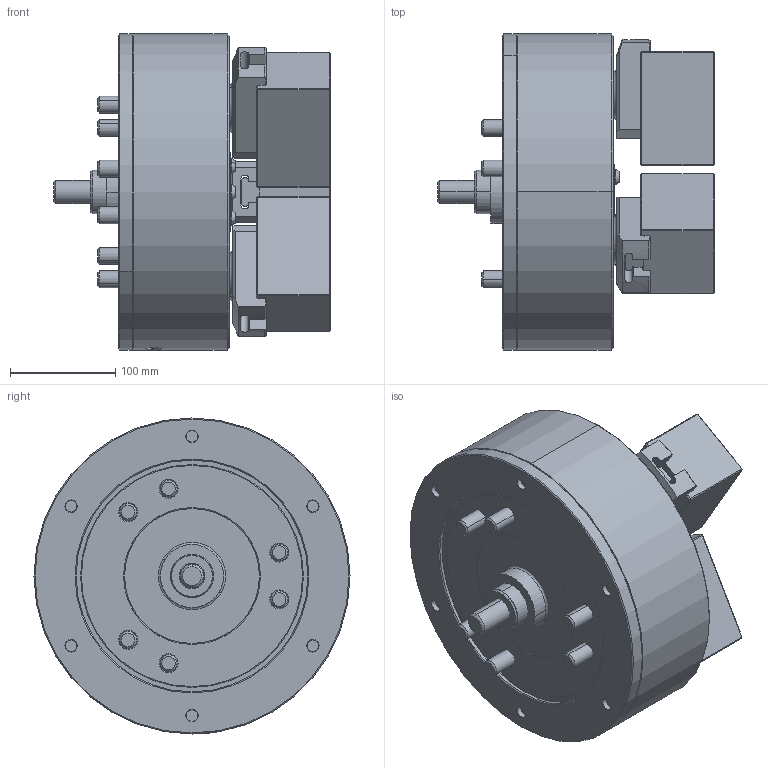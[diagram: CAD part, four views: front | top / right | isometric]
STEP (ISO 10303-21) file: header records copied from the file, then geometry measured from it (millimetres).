
FILE_DESCRIPTION (( 'STEP AP214' ), '1' );
FILE_NAME ('PW-12_CL.STEP', '2019-10-08T06:46:21', ( '' ), ( '' ), 'SwSTEP 2.0', 'SolidWorks 2017', '' );
FILE_SCHEMA (( 'AUTOMOTIVE_DESIGN' ));
Length unit declared in the file: millimetre
Products named in the file (5): 結合_OD; 0030116025; 61P420193; 61P323264; PW-12_CL
Assembly tree (13 placements, depth 2):
  PW-12_CL
    61P323264  x3
    61P420193  x3
    0030116025  x6
    結合_OD
Bounding box: 262.8 x 300 x 300 mm (x, y, z)
Volume: 9038091.5 mm3; surface area: 606727.8 mm2
Topology: 13 solids, 14 shells, 1755 faces, 4243 edges, 2638 vertices
Faces by surface type: plane 903, cone 326, cylinder 281, bspline 185, torus 60
Entity records: 51447 total; most frequent: CARTESIAN_POINT 18053, ORIENTED_EDGE 7162, DIRECTION 6285, EDGE_CURVE 3581, VERTEX_POINT 2263, AXIS2_PLACEMENT_3D 2135, LINE 2015, VECTOR 2015
